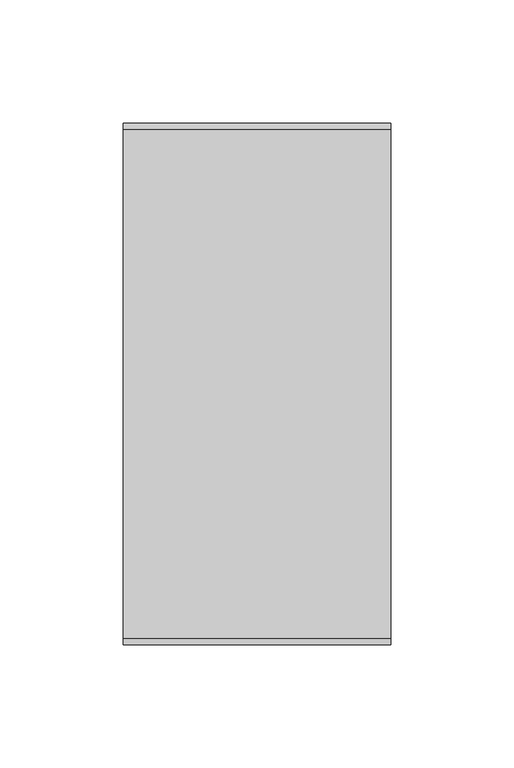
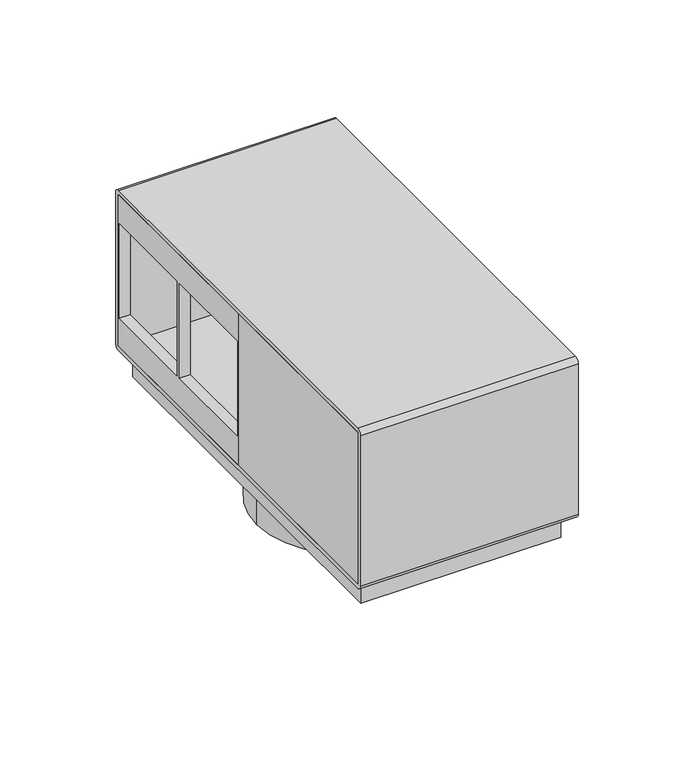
"""IFC4 building model written with IfcOpenShell, lengths in millimetres: proxy geometry, Electrical_Installation_Hager_VE-EE_Pedestal-box-4 : GB pedestal box 4 inst. fields iron gray."""

from ifc_helpers import new_model, si_unit, point, frame, frame_2d, origin, origin_with_axes, origin_2d, place, context, project, spatial, polyline, circle_curve, trimmed, segment, composite_curve, outline, extrude, source, transform, mapped, element, save


def electrical_fixtures_c54f30ff(model_context):
    return source(origin(), model_context, "Body", "SweptSolid", [
        extrude(outline(polyline([(1.25, -0.764292), (1.25, 0.764292), (48.9, 0.764292), (48.9, -0.764292), (1.25, -0.764292)])), frame((0.0, 0.0, 14.8), z_axis=(0.0, 0.0, 1.0), x_axis=(1.0, 0.0, 0.0)), (0.0, 0.0, 1.0), 79.9),
        extrude(outline(polyline([(-1.25, 0.764292), (-1.25, -0.764292), (-48.9, -0.764292), (-48.9, 0.764292), (-1.25, 0.764292)])), frame((0.0, 0.0, 14.8), z_axis=(0.0, 0.0, 1.0), x_axis=(1.0, 0.0, 0.0)), (0.0, 0.0, 1.0), 79.9),
        extrude(outline(polyline([(0.0, 94.7), (103.7, 94.7), (103.7, 14.8), (0.0, 14.8), (0.0, 94.7)]), holes=[polyline([(52.935708, 79.75), (52.935708, 29.75), (102.935708, 29.75), (102.935708, 79.75), (52.935708, 79.75)]), polyline([(50.764292, 79.75), (0.764292, 79.75), (0.764292, 29.75), (50.764292, 29.75), (50.764292, 79.75)])]), frame((-54.4, 0.0, 0.0), z_axis=(1.0, 0.0, 0.0), x_axis=(0.0, 1.0, 0.0)), (0.0, 0.0, 1.0), 5.5),
        extrude(outline(polyline([(-54.4, -103.7), (-54.4, 0.0), (-48.9, 0.0), (-48.9, -103.7), (-54.4, -103.7)])), frame((0.0, 0.0, 14.8), z_axis=(0.0, 0.0, 1.0), x_axis=(1.0, 0.0, 0.0)), (0.0, 0.0, 1.0), 79.9),
        extrude(outline(polyline([(54.4, 103.7), (54.4, 0.0), (48.9, 0.0), (48.9, 103.7), (54.4, 103.7)])), frame((0.0, 0.0, 14.8), z_axis=(0.0, 0.0, 1.0), x_axis=(1.0, 0.0, 0.0)), (0.0, 0.0, 1.0), 79.9),
        extrude(outline(composite_curve([segment(polyline([(-103.5, 97.0), (103.5, 97.0)]), True, "CONTINUOUS"), segment(trimmed(circle_curve(frame_2d((103.5, 94.5)), 2.5), [point((103.5, 97.0))], [point((106.0, 94.5))], False, "CARTESIAN"), True, "CONTINUOUS"), segment(polyline([(106.0, 94.5), (106.0, 15.0)]), True, "CONTINUOUS"), segment(trimmed(circle_curve(frame_2d((103.5, 15.0)), 2.5), [point((106.0, 15.0))], [point((103.5, 12.5))], False, "CARTESIAN"), True, "CONTINUOUS"), segment(polyline([(103.5, 12.5), (-103.5, 12.5)]), True, "CONTINUOUS"), segment(trimmed(circle_curve(frame_2d((-103.5, 15.0)), 2.5), [point((-103.5, 12.5))], [point((-106.0, 15.0))], False, "CARTESIAN"), True, "CONTINUOUS"), segment(polyline([(-106.0, 15.0), (-106.0, 94.5)]), True, "CONTINUOUS"), segment(trimmed(circle_curve(frame_2d((-103.5, 94.5)), 2.5), [point((-106.0, 94.5))], [point((-103.5, 97.0))], False, "CARTESIAN"), True, "CONTINUOUS")], self_intersect=False), holes=[polyline([(-103.7, 94.7), (-103.7, 14.8), (103.7, 14.8), (103.7, 94.7), (-103.7, 94.7)])]), frame((-54.4, 0.0, 0.0), z_axis=(1.0, 0.0, 0.0), x_axis=(0.0, 1.0, 0.0)), (0.0, 0.0, 1.0), 108.8),
        extrude(outline(polyline([(0.0, 94.7), (0.0, 14.8), (-103.7, 14.8), (-103.7, 94.7), (0.0, 94.7)]), holes=[composite_curve([segment(trimmed(circle_curve(frame_2d((-51.85, 54.75)), 25.0), [point((-76.85, 54.75))], [point((-26.85, 54.75))], True, "CARTESIAN"), True, "CONTINUOUS"), segment(trimmed(circle_curve(frame_2d((-51.85, 54.75)), 25.0), [point((-26.85, 54.75))], [point((-76.85, 54.75))], True, "CARTESIAN"), True, "CONTINUOUS")], self_intersect=False)]), frame((48.9, 0.0, 0.0), z_axis=(1.0, 0.0, 0.0), x_axis=(0.0, 1.0, 0.0)), (0.0, 0.0, 1.0), 5.5),
        extrude(outline(composite_curve([segment(trimmed(circle_curve(origin_2d(), 45.0), [point((-45.0, 0.0))], [point((45.0, 0.0))], False, "CARTESIAN"), True, "CONTINUOUS"), segment(trimmed(circle_curve(origin_2d(), 45.0), [point((45.0, 0.0))], [point((-45.0, 0.0))], False, "CARTESIAN"), True, "CONTINUOUS")], self_intersect=False), holes=[composite_curve([segment(trimmed(circle_curve(origin_2d(), 27.5), [point((-27.5, 0.0))], [point((27.5, 0.0))], True, "CARTESIAN"), True, "CONTINUOUS"), segment(trimmed(circle_curve(origin_2d(), 27.5), [point((27.5, 0.0))], [point((-27.5, 0.0))], True, "CARTESIAN"), True, "CONTINUOUS")], self_intersect=False)]), frame((0.0, 0.0, -20.0), z_axis=(0.0, 0.0, 1.0), x_axis=(1.0, 0.0, 0.0)), (0.0, 0.0, 1.0), 20.0),
        extrude(outline(polyline([(1.25, 103.7), (1.25, -103.7), (-1.25, -103.7), (-1.25, 103.7), (1.25, 103.7)])), frame((0.0, 0.0, 14.8), z_axis=(0.0, 0.0, 1.0), x_axis=(1.0, 0.0, 0.0)), (0.0, 0.0, 1.0), 79.9),
        extrude(outline(polyline([(50.0, -98.7), (-50.0, -98.7), (-50.0, 98.7), (50.0, 98.7), (50.0, -98.7)]), holes=[composite_curve([segment(trimmed(circle_curve(frame_2d((-28.5912964, 0.7333267)), 5.0), [point((-24.4955362, 3.6012089))], [point((-25.7234143, -3.3624335))], False, "CARTESIAN"), True, "CONTINUOUS"), segment(polyline([(-25.7234143, -3.3624335), (-34.1678222, -9.2752716)]), True, "CONTINUOUS"), segment(trimmed(circle_curve(frame_2d((-31.29994, -13.3710318)), 5.0), [point((-34.1678222, -9.2752716))], [point((-35.8979613, -15.335262))], True, "CARTESIAN"), True, "CONTINUOUS"), segment(trimmed(circle_curve(origin_2d(), 39.0363149), [point((-35.8979613, -15.335262))], [point((-26.6882584, -28.4880808))], True, "CARTESIAN"), True, "CONTINUOUS"), segment(trimmed(circle_curve(frame_2d((-23.2698699, -24.8391604)), 5.0), [point((-26.6882584, -28.4880808))], [point((-20.4019877, -28.9349206))], True, "CARTESIAN"), True, "CONTINUOUS"), segment(polyline([(-20.4019877, -28.9349206), (-11.9575798, -23.0220826)]), True, "CONTINUOUS"), segment(trimmed(circle_curve(frame_2d((-9.0896976, -27.1178428)), 5.0), [point((-11.9575798, -23.0220826))], [point((-4.9939374, -24.2499606))], False, "CARTESIAN"), True, "CONTINUOUS"), segment(polyline([(-4.9939374, -24.2499606), (3.2975997, -36.0915028)]), True, "CONTINUOUS"), segment(trimmed(circle_curve(frame_2d((7.3933599, -33.2236206)), 5.0), [point((3.2975997, -36.0915028))], [point((8.4794587, -38.1042342))], True, "CARTESIAN"), True, "CONTINUOUS"), segment(trimmed(circle_curve(origin_2d(), 39.0363149), [point((8.4794587, -38.1042342))], [point((32.906122, -21.0005004))], True, "CARTESIAN"), True, "CONTINUOUS"), segment(trimmed(circle_curve(frame_2d((28.6913131, -18.3106332)), 5.0), [point((32.906122, -21.0005004))], [point((32.7870733, -15.442751))], True, "CARTESIAN"), True, "CONTINUOUS"), segment(polyline([(32.7870733, -15.442751), (24.4955362, -3.6012089)]), True, "CONTINUOUS"), segment(trimmed(circle_curve(frame_2d((28.5912964, -0.7333267)), 5.0), [point((24.4955362, -3.6012089))], [point((25.7234143, 3.3624335))], False, "CARTESIAN"), True, "CONTINUOUS"), segment(polyline([(25.7234143, 3.3624335), (34.1678222, 9.2752716)]), True, "CONTINUOUS"), segment(trimmed(circle_curve(frame_2d((31.29994, 13.3710318)), 5.0), [point((34.1678222, 9.2752716))], [point((35.8979613, 15.335262))], True, "CARTESIAN"), True, "CONTINUOUS"), segment(trimmed(circle_curve(origin_2d(), 39.0363149), [point((35.8979613, 15.335262))], [point((26.6882584, 28.4880808))], True, "CARTESIAN"), True, "CONTINUOUS"), segment(trimmed(circle_curve(frame_2d((23.2698699, 24.8391604)), 5.0), [point((26.6882584, 28.4880808))], [point((20.4019877, 28.9349206))], True, "CARTESIAN"), True, "CONTINUOUS"), segment(polyline([(20.4019877, 28.9349206), (11.9575798, 23.0220826)]), True, "CONTINUOUS"), segment(trimmed(circle_curve(frame_2d((9.0896976, 27.1178428)), 5.0), [point((11.9575798, 23.0220826))], [point((4.9939374, 24.2499606))], False, "CARTESIAN"), True, "CONTINUOUS"), segment(polyline([(4.9939374, 24.2499606), (-3.2975997, 36.0915028)]), True, "CONTINUOUS"), segment(trimmed(circle_curve(frame_2d((-7.3933599, 33.2236206)), 5.0), [point((-3.2975997, 36.0915028))], [point((-8.4794587, 38.1042342))], True, "CARTESIAN"), True, "CONTINUOUS"), segment(trimmed(circle_curve(origin_2d(), 39.0363149), [point((-8.4794587, 38.1042342))], [point((-32.906122, 21.0005004))], True, "CARTESIAN"), True, "CONTINUOUS"), segment(trimmed(circle_curve(frame_2d((-28.6913131, 18.3106332)), 5.0), [point((-32.906122, 21.0005004))], [point((-32.7870733, 15.442751))], True, "CARTESIAN"), True, "CONTINUOUS"), segment(polyline([(-32.7870733, 15.442751), (-24.4955362, 3.6012089)]), True, "CONTINUOUS")], self_intersect=False)]), origin_with_axes(), (0.0, 0.0, 1.0), 12.5),
    ])


if __name__ == "__main__":
    model = new_model("IFC4")
    model_context = context("Model", 3, world=origin())
    ifc_project = project(units=[si_unit("LENGTHUNIT", "METRE", prefix="MILLI")], contexts=[model_context])
    site = spatial("IfcSite", under=ifc_project)
    building = spatial("IfcBuilding", under=site)
    placement = place(None, origin())
    electrical_fixtures_shape = electrical_fixtures_c54f30ff(model_context)
    element("IfcBuildingElementProxy", 1, Name="Electrical_Installation_Hager_VE-EE_Pedestal-box-4 : GB pedestal box 4 inst. fields iron gray", ObjectType="Electrical_Installation_Hager_VE-EE_Pedestal-box-4 : GB pedestal box 4 inst. fields iron gray", at=placement, inside=building, context=model_context, shape_type="MappedRepresentation", body=[
        mapped(electrical_fixtures_shape, transform((0.0, 0.0, 0.0), x_axis=(1.0, 0.0, 0.0), y_axis=(0.0, 1.0, 0.0), z_axis=(0.0, 0.0, 1.0))),
    ])
    save(model, "model.ifc")
